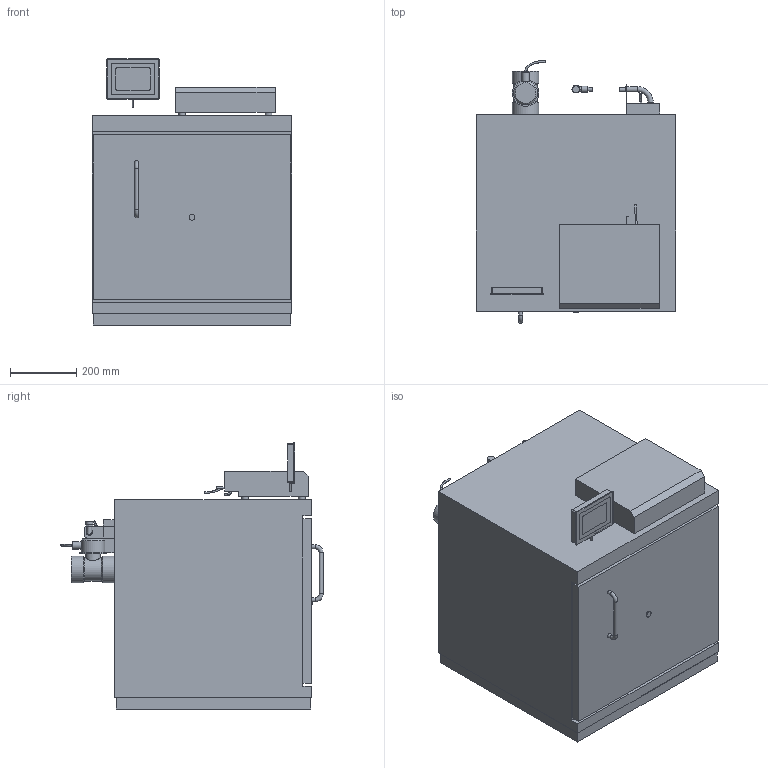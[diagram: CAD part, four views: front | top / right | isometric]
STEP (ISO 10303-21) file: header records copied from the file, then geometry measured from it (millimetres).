
FILE_DESCRIPTION(/* description */ ('Unknown'),/* implementation_level */ '2;1');
FILE_NAME(/* name */ 'D00107285',/* time_stamp */ '2020-08-24T08:17:52+02:00',/* author */ ('Unknown'),/* organization */ ('Unknown'),/* preprocessor_version */ 'ST-DEVELOPER v16.7',/* originating_system */ 'Solid Edge',/* authorisation */ 'Unknown');
FILE_SCHEMA (('AUTOMOTIVE_DESIGN {1 0 10303 214 3 1 1}'));
Length unit declared in the file: millimetre
Products named in the file (1): Sicherheitsschrank Typ 90_D00107285
Bounding box: 601 x 790.37 x 802 mm (x, y, z)
Volume: 231523597.7 mm3; surface area: 2663062.1 mm2
Topology: 3 solids, 3 shells, 196 faces, 465 edges, 312 vertices
Faces by surface type: plane 119, cylinder 65, bspline 6, torus 3, cone 3
Full cylindrical faces by diameter (mm): 5 x4, 6 x3, 8 x1, 10 x1, 12 x5, 14.5 x2, 16 x3, 18 x1, 19.5 x1, 20 x4, 20.96 x1, 22 x1, 45 x1, 70 x1, 72 x1, 80 x3
Entity records: 8066 total; most frequent: CARTESIAN_POINT 2334, DIRECTION 894, ORIENTED_EDGE 800, EDGE_CURVE 400, AXIS2_PLACEMENT_3D 318, VERTEX_POINT 292, EDGE_LOOP 288, FACE_BOUND 288
